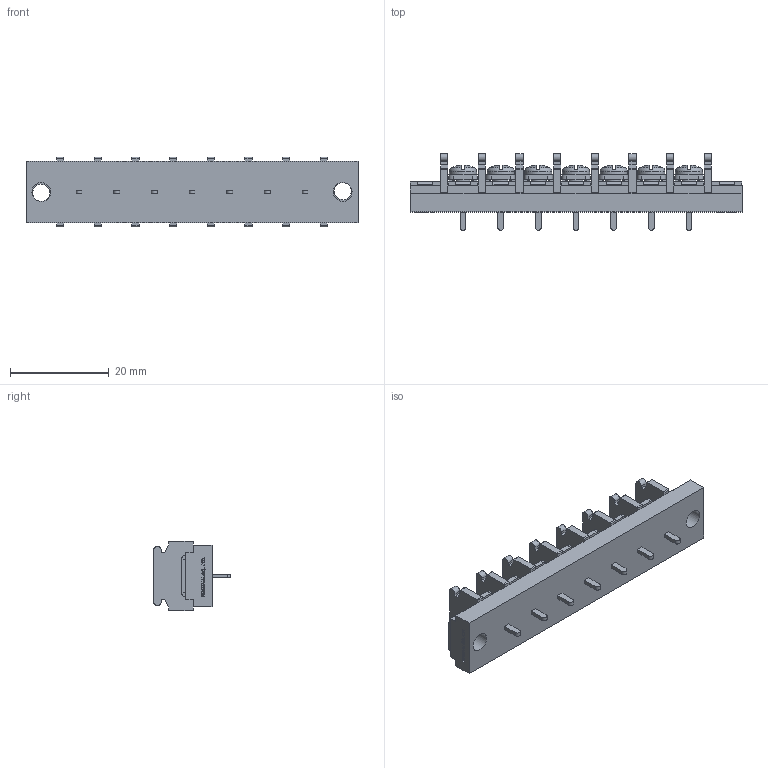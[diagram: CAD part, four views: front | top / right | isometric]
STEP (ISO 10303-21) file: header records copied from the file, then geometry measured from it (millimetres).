
FILE_DESCRIPTION(/* description */ ('Alibre Inc.'),/* implementation_level */ '2;1');
FILE_NAME(/* name */ 'export0',/* time_stamp */ '2015-10-23T19:19:23+09:00',/* author */ (''),/* organization */ (''),/* preprocessor_version */ 'ST-DEVELOPER v14',/* originating_system */ 'Alibre',/* authorisation */ '');
FILE_SCHEMA (('CONFIG_CONTROL_DESIGN'));
Length unit declared in the file: centimetre
Products named in the file (1): ID_1
Bounding box: 67.16 x 15.5 x 14 mm (x, y, z)
Volume: 5928 mm3; surface area: 5632.9 mm2
Topology: 1 solids, 1 shells, 1224 faces, 3350 edges, 2198 vertices
Faces by surface type: plane 945, cylinder 119, bspline 104, cone 28, torus 14, sphere 14
Full cylindrical faces by diameter (mm): 3 x7, 3.5 x2, 3.8 x2, 5.5 x7
Entity records: 36813 total; most frequent: CARTESIAN_POINT 7909, ORIENTED_EDGE 6600, DIRECTION 4582, EDGE_CURVE 3300, VECTOR 2430, LINE 2430, VERTEX_POINT 2180, AXIS2_PLACEMENT_3D 1519
